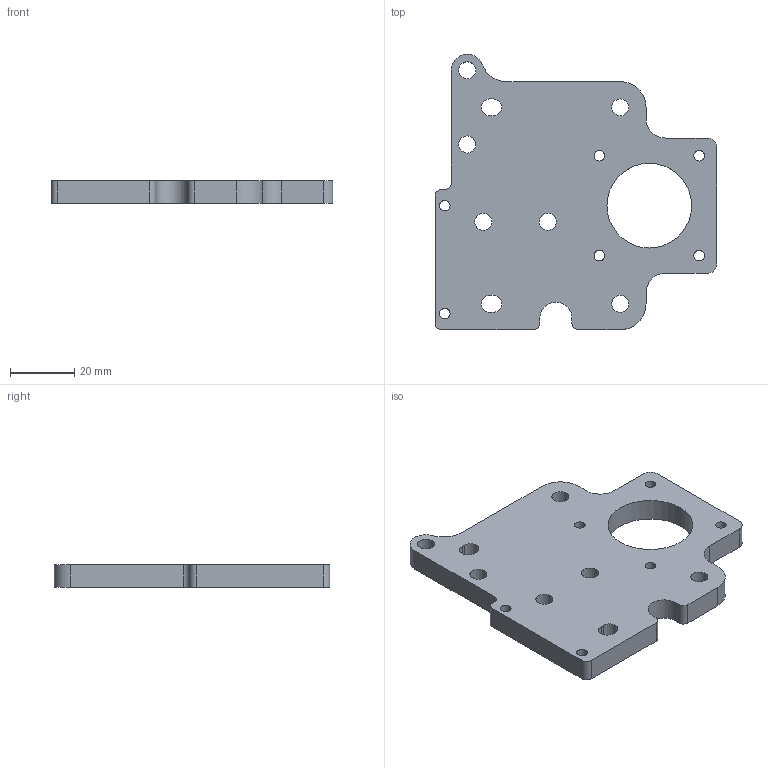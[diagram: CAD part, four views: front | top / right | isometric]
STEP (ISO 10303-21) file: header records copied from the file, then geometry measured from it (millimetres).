
FILE_DESCRIPTION (( 'STEP AP214' ), '1' );
FILE_NAME ('Plate_V.STEP', '2026-05-02T17:01:35', ( '' ), ( '' ), 'SwSTEP 2.0', 'SolidWorks 2010', '' );
FILE_SCHEMA (( 'AUTOMOTIVE_DESIGN' ));
Length unit declared in the file: millimetre
Products named in the file (1): Plate_V
Bounding box: 87.5 x 85.5 x 7 mm (x, y, z)
Volume: 35064.1 mm3; surface area: 14322.2 mm2
Topology: 1 solids, 1 shells, 65 faces, 189 edges, 126 vertices
Faces by surface type: cylinder 46, plane 19
Entity records: 2289 total; most frequent: DIRECTION 413, CARTESIAN_POINT 381, ORIENTED_EDGE 378, EDGE_CURVE 189, AXIS2_PLACEMENT_3D 158, VERTEX_POINT 126, LINE 97, VECTOR 97
